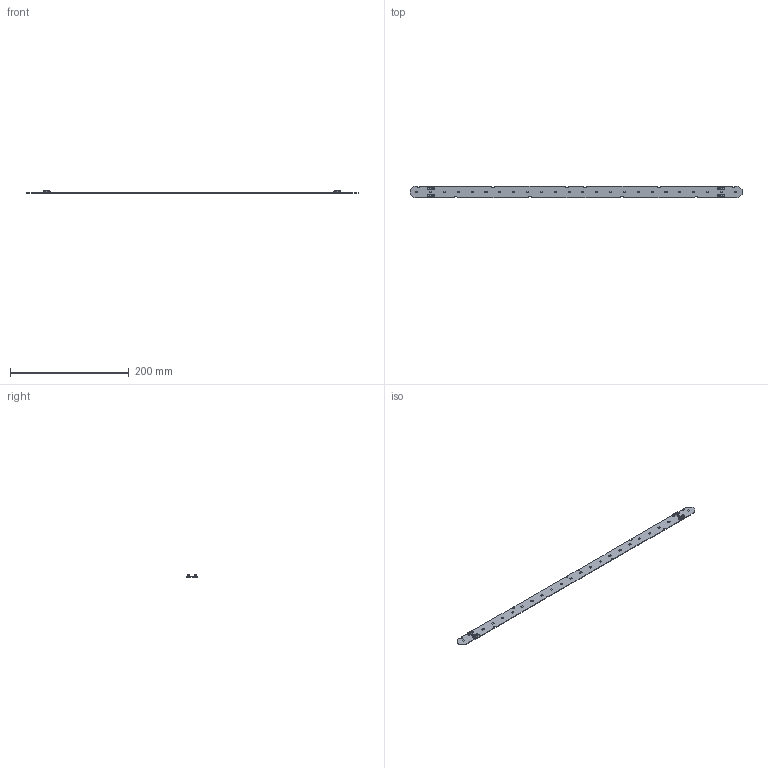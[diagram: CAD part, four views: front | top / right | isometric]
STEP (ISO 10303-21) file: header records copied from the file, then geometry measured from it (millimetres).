
FILE_DESCRIPTION(/* description */ ('Unknown'),/* implementation_level */ '2;1');
FILE_NAME(/* name */ 'LinLED 560x20mm 1100lm 4C 36V sh-000 2023-05-17',/* time_stamp */ '2023-05-17T16:25:47+02:00',/* author */ ('Unknown'),/* organization */ ('Unknown'),/* preprocessor_version */ 'ST-DEVELOPER v18.102',/* originating_system */ 'Solid Edge',/* authorisation */ 'Unknown');
FILE_SCHEMA (('AUTOMOTIVE_DESIGN {1 0 10303 214 3 1 1}'));
Products named in the file (1): LinLED 560x20mm 1100lm 4C 36V sh-000 2023-05-17
Bounding box: 559.6 x 20 x 4.45 mm (x, y, z)
Volume: 11617.4 mm3; surface area: 24186.7 mm2
Topology: 1 solids, 1 shells, 1422 faces, 3704 edges, 2332 vertices
Faces by surface type: plane 816, cylinder 294, torus 128, cone 100, bspline 52, sphere 32
Entity records: 55048 total; most frequent: CARTESIAN_POINT 11911, ORIENTED_EDGE 7312, DIRECTION 6114, EDGE_CURVE 3656, LINE 2372, VECTOR 2372, VERTEX_POINT 2320, AXIS2_PLACEMENT_3D 1871
